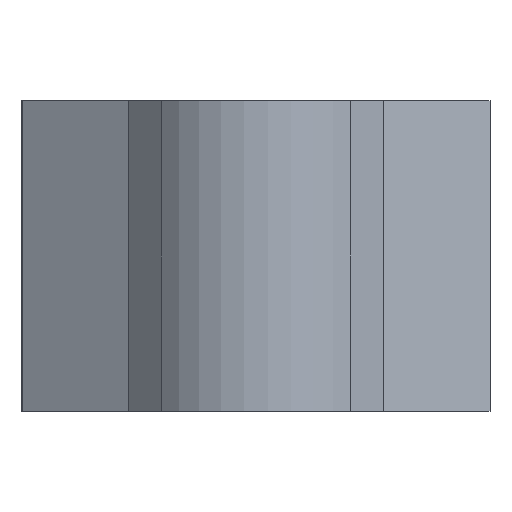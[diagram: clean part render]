
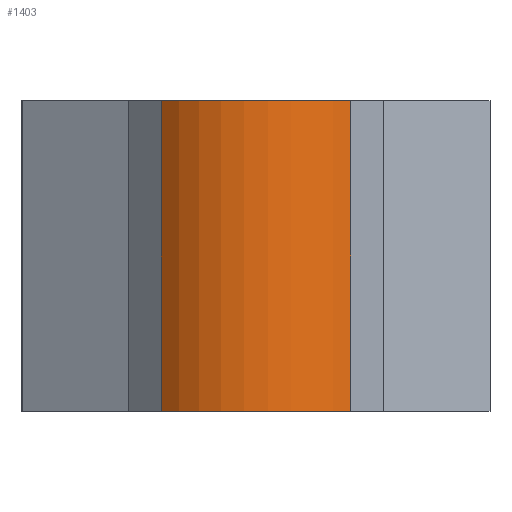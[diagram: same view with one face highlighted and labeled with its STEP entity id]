
A CAD part, front view. The second image highlights one B-rep face of the part: STEP entity #1403.
In plain terms, the highlighted cylindrical face has radius 10 mm (diameter 20 mm), a partial arc.
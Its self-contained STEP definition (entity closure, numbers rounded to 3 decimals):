
#1191 = VERTEX_POINT ( 'NONE', #4205 ) ;
#1256 = EDGE_CURVE ( 'NONE', #1257, #1191, #4344, .T. ) ;
#1257 = VERTEX_POINT ( 'NONE', #4339 ) ;
#1365 = ORIENTED_EDGE ( 'NONE', *, *, #1256, .T. ) ;
#1366 = ORIENTED_EDGE ( 'NONE', *, *, #1367, .F. ) ;
#1367 = EDGE_CURVE ( 'NONE', #1389, #1191, #4547, .T. ) ;
#1368 = ORIENTED_EDGE ( 'NONE', *, *, #1388, .F. ) ;
#1369 = ORIENTED_EDGE ( 'NONE', *, *, #1370, .T. ) ;
#1370 = EDGE_CURVE ( 'NONE', #1386, #1257, #4540, .T. ) ;
#1386 = VERTEX_POINT ( 'NONE', #4573 ) ;
#1388 = EDGE_CURVE ( 'NONE', #1386, #1389, #4572, .T. ) ;
#1389 = VERTEX_POINT ( 'NONE', #4567 ) ;
#1403 = ADVANCED_FACE ( 'NONE', ( #4609 ), #4608, .T. ) ;
#1404 = EDGE_LOOP ( 'NONE', ( #1365, #1366, #1368, #1369 ) ) ;
#4205 = CARTESIAN_POINT ( 'NONE',  ( 7.071, -3.043, 0. ) ) ;
#4339 = CARTESIAN_POINT ( 'NONE',  ( -7.071, -3.043, 0. ) ) ;
#4340 = DIRECTION ( 'NONE',  ( 1., 0., 0. ) ) ;
#4341 = DIRECTION ( 'NONE',  ( 0., 0., 1. ) ) ;
#4342 = CARTESIAN_POINT ( 'NONE',  ( 0., 4.028, 0. ) ) ;
#4343 = AXIS2_PLACEMENT_3D ( 'NONE', #4342, #4341, #4340 ) ;
#4344 = CIRCLE ( 'NONE', #4343, 10. ) ;
#4537 = DIRECTION ( 'NONE',  ( 0., 0., -1. ) ) ;
#4538 = VECTOR ( 'NONE', #4537, 1000. ) ;
#4539 = CARTESIAN_POINT ( 'NONE',  ( -7.071, -3.043, 23.2 ) ) ;
#4540 = LINE ( 'NONE', #4539, #4538 ) ;
#4541 = DIRECTION ( 'NONE',  ( 0., 0., -1. ) ) ;
#4542 = VECTOR ( 'NONE', #4541, 1000. ) ;
#4543 = CARTESIAN_POINT ( 'NONE',  ( 7.071, -3.043, 23.2 ) ) ;
#4547 = LINE ( 'NONE', #4543, #4542 ) ;
#4567 = CARTESIAN_POINT ( 'NONE',  ( 7.071, -3.043, 23.2 ) ) ;
#4568 = DIRECTION ( 'NONE',  ( 1., 0., 0. ) ) ;
#4569 = DIRECTION ( 'NONE',  ( 0., 0., 1. ) ) ;
#4570 = CARTESIAN_POINT ( 'NONE',  ( 0., 4.028, 23.2 ) ) ;
#4571 = AXIS2_PLACEMENT_3D ( 'NONE', #4570, #4569, #4568 ) ;
#4572 = CIRCLE ( 'NONE', #4571, 10. ) ;
#4573 = CARTESIAN_POINT ( 'NONE',  ( -7.071, -3.043, 23.2 ) ) ;
#4604 = DIRECTION ( 'NONE',  ( -1., 0., 0. ) ) ;
#4605 = DIRECTION ( 'NONE',  ( 0., 0., -1. ) ) ;
#4606 = CARTESIAN_POINT ( 'NONE',  ( 0., 4.028, 23.2 ) ) ;
#4607 = AXIS2_PLACEMENT_3D ( 'NONE', #4606, #4605, #4604 ) ;
#4608 = CYLINDRICAL_SURFACE ( 'NONE', #4607, 10. ) ;
#4609 = FACE_OUTER_BOUND ( 'NONE', #1404, .T. ) ;
